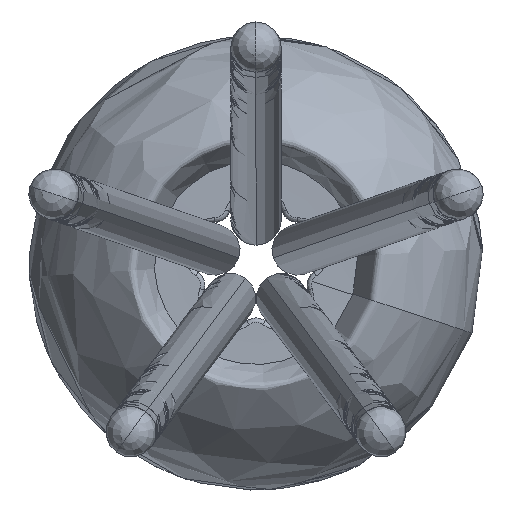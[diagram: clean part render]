
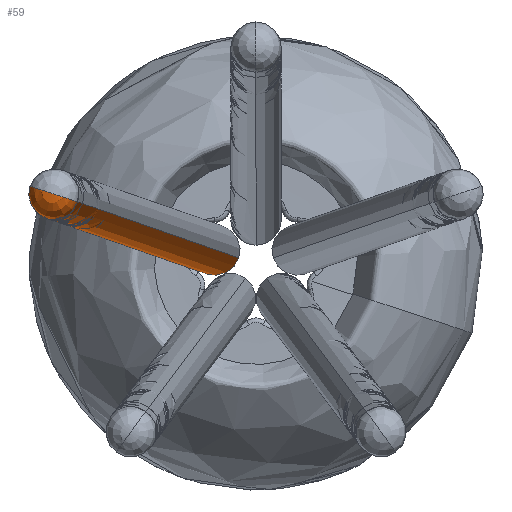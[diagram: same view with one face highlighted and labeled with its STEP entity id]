
A CAD part, top view. The second image highlights one B-rep face of the part: STEP entity #59.
In plain terms, the highlighted free-form (B-spline) face has degree [2, 2] with [13, 5] control points.
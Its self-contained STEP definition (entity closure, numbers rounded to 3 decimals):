
#59=ADVANCED_FACE('',(#103),#627,.T.);
#103=FACE_OUTER_BOUND('',#147,.T.);
#147=EDGE_LOOP('',(#318,#319));
#318=ORIENTED_EDGE('',*,*,#417,.T.);
#319=ORIENTED_EDGE('',*,*,#416,.F.);
#416=EDGE_CURVE('',#582,#583,#526,.T.);
#417=EDGE_CURVE('',#582,#583,#527,.T.);
#526=(
BOUNDED_CURVE()
B_SPLINE_CURVE(2,(#5263,#5264,#5265,#5266,#5267,#5268,#5269,#5270,#5271,
#5272,#5273,#5274,#5275),.UNSPECIFIED.,.F.,.F.)
B_SPLINE_CURVE_WITH_KNOTS((3,2,2,2,2,2,3),(0.,1.146,2.291,
62.832,123.372,124.518,125.664),
 .UNSPECIFIED.)
CURVE()
GEOMETRIC_REPRESENTATION_ITEM()
RATIONAL_B_SPLINE_CURVE((1.,0.924,1.,0.924,1.,1.,
1.,1.,1.,0.924,1.,0.924,1.))
REPRESENTATION_ITEM('')
);
#527=(
BOUNDED_CURVE()
B_SPLINE_CURVE(2,(#5276,#5277,#5278,#5279,#5280,#5281,#5282,#5283,#5284,
#5285,#5286,#5287,#5288),.UNSPECIFIED.,.F.,.F.)
B_SPLINE_CURVE_WITH_KNOTS((3,2,2,2,2,2,3),(0.,1.146,2.291,
62.832,123.372,124.518,125.664),
 .UNSPECIFIED.)
CURVE()
GEOMETRIC_REPRESENTATION_ITEM()
RATIONAL_B_SPLINE_CURVE((1.,0.924,1.,0.924,1.,1.,
1.,1.,1.,0.924,1.,0.924,1.))
REPRESENTATION_ITEM('')
);
#582=VERTEX_POINT('',#5261);
#583=VERTEX_POINT('',#5262);
#627=(
BOUNDED_SURFACE()
B_SPLINE_SURFACE(2,2,((#5196,#5197,#5198,#5199,#5200),(#5201,#5202,#5203,
#5204,#5205),(#5206,#5207,#5208,#5209,#5210),(#5211,#5212,#5213,#5214,#5215),
(#5216,#5217,#5218,#5219,#5220),(#5221,#5222,#5223,#5224,#5225),(#5226,
#5227,#5228,#5229,#5230),(#5231,#5232,#5233,#5234,#5235),(#5236,#5237,#5238,
#5239,#5240),(#5241,#5242,#5243,#5244,#5245),(#5246,#5247,#5248,#5249,#5250),
(#5251,#5252,#5253,#5254,#5255),(#5256,#5257,#5258,#5259,#5260)),
 .UNSPECIFIED.,.F.,.F.,.F.)
B_SPLINE_SURFACE_WITH_KNOTS((3,2,2,2,2,2,3),(3,2,3),(0.,1.146,
2.291,62.832,123.372,124.518,125.664),
(861.416,1292.124,1722.832),.UNSPECIFIED.)
GEOMETRIC_REPRESENTATION_ITEM()
RATIONAL_B_SPLINE_SURFACE(((1.,0.707,1.,0.707,1.),
(0.924,0.653,0.924,0.653,
0.924),(1.,0.707,1.,0.707,1.),(0.924,
0.653,0.924,0.653,0.924),
(1.,0.707,1.,0.707,1.),(1.,0.707,1.,
0.707,1.),(1.,0.707,1.,0.707,1.),(1.,
0.707,1.,0.707,1.),(1.,0.707,1.,0.707,
1.),(0.924,0.653,0.924,0.653,
0.924),(1.,0.707,1.,0.707,1.),(0.924,
0.653,0.924,0.653,0.924),
(1.,0.707,1.,0.707,1.)))
REPRESENTATION_ITEM('')
SURFACE()
);
#5196=CARTESIAN_POINT('',(-31.109,5.845,0.065));
#5197=CARTESIAN_POINT('',(-31.109,5.845,0.065));
#5198=CARTESIAN_POINT('',(-31.109,5.845,0.065));
#5199=CARTESIAN_POINT('',(-31.109,5.845,0.065));
#5200=CARTESIAN_POINT('',(-31.109,5.845,0.065));
#5201=CARTESIAN_POINT('',(-23.256,3.293,0.735));
#5202=CARTESIAN_POINT('',(-25.816,-4.586,0.735));
#5203=CARTESIAN_POINT('',(-33.669,-2.034,0.065));
#5204=CARTESIAN_POINT('',(-41.522,0.518,-0.604));
#5205=CARTESIAN_POINT('',(-38.962,8.396,-0.604));
#5206=CARTESIAN_POINT('',(-18.153,1.635,7.047));
#5207=CARTESIAN_POINT('',(-22.523,-11.815,7.047));
#5208=CARTESIAN_POINT('',(-35.929,-7.459,5.904));
#5209=CARTESIAN_POINT('',(-49.335,-3.103,4.761));
#5210=CARTESIAN_POINT('',(-44.965,10.347,4.761));
#5211=CARTESIAN_POINT('',(-13.051,-0.023,13.36));
#5212=CARTESIAN_POINT('',(-19.231,-19.044,13.36));
#5213=CARTESIAN_POINT('',(-38.19,-12.884,11.743));
#5214=CARTESIAN_POINT('',(-57.149,-6.724,10.126));
#5215=CARTESIAN_POINT('',(-50.968,12.298,10.126));
#5216=CARTESIAN_POINT('',(-13.688,0.184,21.617));
#5217=CARTESIAN_POINT('',(-19.868,-18.837,21.617));
#5218=CARTESIAN_POINT('',(-38.827,-12.677,20.));
#5219=CARTESIAN_POINT('',(-57.786,-6.517,18.383));
#5220=CARTESIAN_POINT('',(-51.605,12.505,18.383));
#5221=CARTESIAN_POINT('',(-45.595,10.552,435.259));
#5222=CARTESIAN_POINT('',(-51.776,-8.469,435.259));
#5223=CARTESIAN_POINT('',(-70.735,-2.309,433.642));
#5224=CARTESIAN_POINT('',(-89.693,3.851,432.025));
#5225=CARTESIAN_POINT('',(-83.513,22.872,432.025));
#5226=CARTESIAN_POINT('',(-77.503,20.919,848.9));
#5227=CARTESIAN_POINT('',(-83.684,1.898,848.9));
#5228=CARTESIAN_POINT('',(-102.642,8.058,847.283));
#5229=CARTESIAN_POINT('',(-121.601,14.218,845.666));
#5230=CARTESIAN_POINT('',(-115.421,33.24,845.666));
#5231=CARTESIAN_POINT('',(-109.411,31.287,1262.542));
#5232=CARTESIAN_POINT('',(-115.591,12.266,1262.542));
#5233=CARTESIAN_POINT('',(-134.55,18.426,1260.925));
#5234=CARTESIAN_POINT('',(-153.509,24.586,1259.308));
#5235=CARTESIAN_POINT('',(-147.329,43.607,1259.308));
#5236=CARTESIAN_POINT('',(-141.319,41.654,1676.183));
#5237=CARTESIAN_POINT('',(-147.499,22.633,1676.183));
#5238=CARTESIAN_POINT('',(-166.458,28.793,1674.567));
#5239=CARTESIAN_POINT('',(-185.417,34.953,1672.95));
#5240=CARTESIAN_POINT('',(-179.237,53.974,1672.95));
#5241=CARTESIAN_POINT('',(-141.956,41.861,1684.441));
#5242=CARTESIAN_POINT('',(-148.136,22.84,1684.441));
#5243=CARTESIAN_POINT('',(-167.095,29.,1682.824));
#5244=CARTESIAN_POINT('',(-186.054,35.16,1681.207));
#5245=CARTESIAN_POINT('',(-179.874,54.181,1681.207));
#5246=CARTESIAN_POINT('',(-147.959,43.812,1689.806));
#5247=CARTESIAN_POINT('',(-152.329,30.362,1689.806));
#5248=CARTESIAN_POINT('',(-165.735,34.718,1688.662));
#5249=CARTESIAN_POINT('',(-179.141,39.074,1687.519));
#5250=CARTESIAN_POINT('',(-174.771,52.524,1687.519));
#5251=CARTESIAN_POINT('',(-153.962,45.762,1695.171));
#5252=CARTESIAN_POINT('',(-156.522,37.884,1695.171));
#5253=CARTESIAN_POINT('',(-164.375,40.435,1694.501));
#5254=CARTESIAN_POINT('',(-172.229,42.987,1693.831));
#5255=CARTESIAN_POINT('',(-169.669,50.866,1693.831));
#5256=CARTESIAN_POINT('',(-161.816,48.314,1694.501));
#5257=CARTESIAN_POINT('',(-161.816,48.314,1694.501));
#5258=CARTESIAN_POINT('',(-161.816,48.314,1694.501));
#5259=CARTESIAN_POINT('',(-161.816,48.314,1694.501));
#5260=CARTESIAN_POINT('',(-161.816,48.314,1694.501));
#5261=CARTESIAN_POINT('',(-31.109,5.845,0.065));
#5262=CARTESIAN_POINT('',(-161.816,48.314,1694.501));
#5263=CARTESIAN_POINT('',(-31.109,5.845,0.065));
#5264=CARTESIAN_POINT('',(-38.962,8.396,-0.604));
#5265=CARTESIAN_POINT('',(-44.965,10.347,4.761));
#5266=CARTESIAN_POINT('',(-50.968,12.298,10.126));
#5267=CARTESIAN_POINT('',(-51.605,12.505,18.383));
#5268=CARTESIAN_POINT('',(-83.513,22.872,432.025));
#5269=CARTESIAN_POINT('',(-115.421,33.24,845.666));
#5270=CARTESIAN_POINT('',(-147.329,43.607,1259.308));
#5271=CARTESIAN_POINT('',(-179.237,53.974,1672.95));
#5272=CARTESIAN_POINT('',(-179.874,54.181,1681.207));
#5273=CARTESIAN_POINT('',(-174.771,52.524,1687.519));
#5274=CARTESIAN_POINT('',(-169.669,50.866,1693.831));
#5275=CARTESIAN_POINT('',(-161.816,48.314,1694.501));
#5276=CARTESIAN_POINT('',(-31.109,5.845,0.065));
#5277=CARTESIAN_POINT('',(-23.256,3.293,0.735));
#5278=CARTESIAN_POINT('',(-18.153,1.635,7.047));
#5279=CARTESIAN_POINT('',(-13.051,-0.023,13.36));
#5280=CARTESIAN_POINT('',(-13.688,0.184,21.617));
#5281=CARTESIAN_POINT('',(-45.595,10.552,435.259));
#5282=CARTESIAN_POINT('',(-77.503,20.919,848.9));
#5283=CARTESIAN_POINT('',(-109.411,31.287,1262.542));
#5284=CARTESIAN_POINT('',(-141.319,41.654,1676.183));
#5285=CARTESIAN_POINT('',(-141.956,41.861,1684.441));
#5286=CARTESIAN_POINT('',(-147.959,43.812,1689.806));
#5287=CARTESIAN_POINT('',(-153.962,45.762,1695.171));
#5288=CARTESIAN_POINT('',(-161.816,48.314,1694.501));
